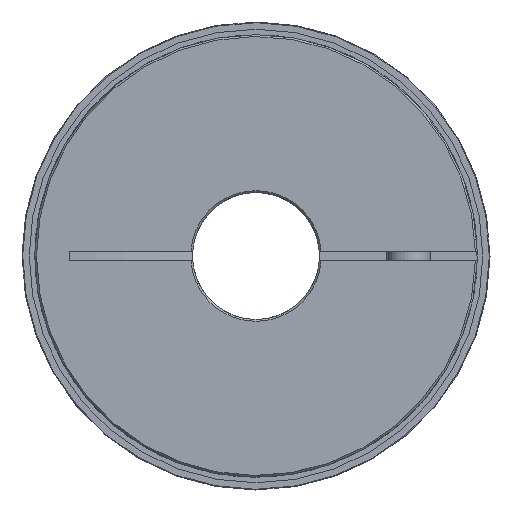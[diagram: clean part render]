
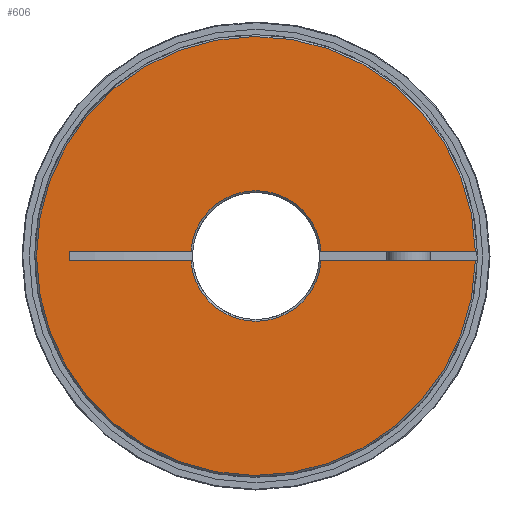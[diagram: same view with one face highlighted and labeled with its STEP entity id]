
A CAD part, left-side view. The second image highlights one B-rep face of the part: STEP entity #606.
In plain terms, the highlighted planar face has unit normal (-1, 0, 0).
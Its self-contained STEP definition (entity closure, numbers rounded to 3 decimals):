
#606 = ADVANCED_FACE( 'NONE', ( #1237 ), #1238, .F. );
#1237 = FACE_OUTER_BOUND( '', #2042, .T. );
#1238 = PLANE( '', #2043 );
#2042 = EDGE_LOOP( '', ( #3074, #3075, #3076, #3077, #3078, #3079, #3080, #3081 ) );
#2043 = AXIS2_PLACEMENT_3D( '', #3082, #3083, #3084 );
#3074 = ORIENTED_EDGE( '', *, *, #4159, .T. );
#3075 = ORIENTED_EDGE( '', *, *, #4175, .T. );
#3076 = ORIENTED_EDGE( '', *, *, #4254, .T. );
#3077 = ORIENTED_EDGE( '', *, *, #4255, .T. );
#3078 = ORIENTED_EDGE( '', *, *, #4256, .F. );
#3079 = ORIENTED_EDGE( '', *, *, #4070, .T. );
#3080 = ORIENTED_EDGE( '', *, *, #4257, .F. );
#3081 = ORIENTED_EDGE( '', *, *, #4225, .T. );
#3082 = CARTESIAN_POINT( '', ( 0., 17.5, 0. ) );
#3083 = DIRECTION( '', ( 1., 0., 0. ) );
#3084 = DIRECTION( '', ( 0., 1., 0. ) );
#4070 = EDGE_CURVE( 'NONE', #4645, #4642, #4646, .T. );
#4159 = EDGE_CURVE( 'NONE', #4791, #4789, #4792, .T. );
#4175 = EDGE_CURVE( 'NONE', #4789, #4813, #4814, .T. );
#4225 = EDGE_CURVE( 'NONE', #4886, #4791, #4889, .T. );
#4254 = EDGE_CURVE( 'NONE', #4813, #4932, #4933, .T. );
#4255 = EDGE_CURVE( 'NONE', #4932, #4934, #4935, .F. );
#4256 = EDGE_CURVE( 'NONE', #4645, #4934, #4936, .F. );
#4257 = EDGE_CURVE( 'NONE', #4886, #4642, #4937, .F. );
#4642 = VERTEX_POINT( 'NONE', #5440 );
#4645 = VERTEX_POINT( 'NONE', #5446 );
#4646 = CIRCLE( '', #5447, 18. );
#4789 = VERTEX_POINT( 'NONE', #5673 );
#4791 = VERTEX_POINT( 'NONE', #5678 );
#4792 = LINE( '', #5679, #5680 );
#4813 = VERTEX_POINT( 'NONE', #5701 );
#4814 = CIRCLE( '', #5702, 18. );
#4886 = VERTEX_POINT( 'NONE', #5808 );
#4889 = LINE( '', #5814, #5815 );
#4932 = VERTEX_POINT( 'NONE', #5867 );
#4933 = LINE( '', #5868, #5869 );
#4934 = VERTEX_POINT( 'NONE', #5870 );
#4935 = CIRCLE( '', #5871, 60.5 );
#4936 = LINE( '', #5872, #5873 );
#4937 = LINE( '', #5874, #5875 );
#5440 = CARTESIAN_POINT( '', ( 0., 17.953, -1.3 ) );
#5446 = CARTESIAN_POINT( '', ( 0., -17.953, -1.3 ) );
#5447 = AXIS2_PLACEMENT_3D( '', #6881, #6882, #6883 );
#5673 = CARTESIAN_POINT( '', ( 0., 17.953, 1.3 ) );
#5678 = CARTESIAN_POINT( '', ( 0., 51.446, 1.3 ) );
#5679 = CARTESIAN_POINT( '', ( 0., 17.5, 1.3 ) );
#5680 = VECTOR( '', #7044, 1000. );
#5701 = CARTESIAN_POINT( '', ( 0., -17.953, 1.3 ) );
#5702 = AXIS2_PLACEMENT_3D( '', #7069, #7070, #7071 );
#5808 = CARTESIAN_POINT( '', ( 0., 51.446, -1.3 ) );
#5814 = CARTESIAN_POINT( '', ( 0., 51.446, -1.3 ) );
#5815 = VECTOR( '', #7124, 1000. );
#5867 = CARTESIAN_POINT( '', ( 0., -60.486, 1.3 ) );
#5868 = CARTESIAN_POINT( '', ( 0., 17.5, 1.3 ) );
#5869 = VECTOR( '', #7161, 1000. );
#5870 = CARTESIAN_POINT( '', ( 0., -60.486, -1.3 ) );
#5871 = AXIS2_PLACEMENT_3D( '', #7162, #7163, #7164 );
#5872 = CARTESIAN_POINT( '', ( 0., -13., -1.3 ) );
#5873 = VECTOR( '', #7165, 1000. );
#5874 = CARTESIAN_POINT( '', ( 0., -13., -1.3 ) );
#5875 = VECTOR( '', #7166, 1000. );
#6881 = CARTESIAN_POINT( '', ( 0., 0., 0. ) );
#6882 = DIRECTION( '', ( 1., 0., 0. ) );
#6883 = DIRECTION( '', ( 0., 0., -1. ) );
#7044 = DIRECTION( '', ( 0., -1., 0. ) );
#7069 = CARTESIAN_POINT( '', ( 0., 0., 0. ) );
#7070 = DIRECTION( '', ( 1., 0., 0. ) );
#7071 = DIRECTION( '', ( 0., 0., -1. ) );
#7124 = DIRECTION( '', ( 0., 0., 1. ) );
#7161 = DIRECTION( '', ( 0., -1., 0. ) );
#7162 = CARTESIAN_POINT( '', ( 0., 0., 0. ) );
#7163 = DIRECTION( '', ( 1., 0., 0. ) );
#7164 = DIRECTION( '', ( 0., 0., -1. ) );
#7165 = DIRECTION( '', ( 0., 1., 0. ) );
#7166 = DIRECTION( '', ( 0., 1., 0. ) );
